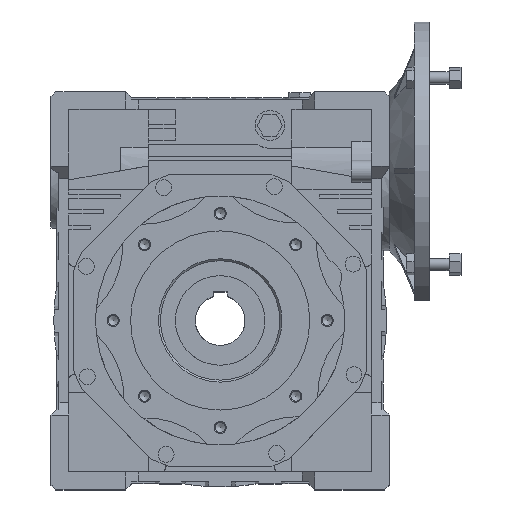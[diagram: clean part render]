
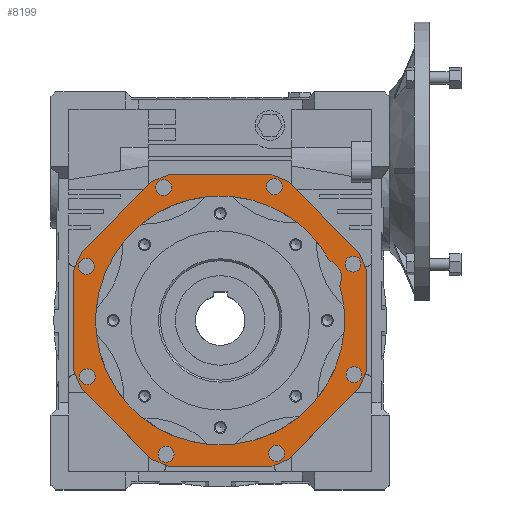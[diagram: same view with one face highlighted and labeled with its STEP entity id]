
A CAD part, top view. The second image highlights one B-rep face of the part: STEP entity #8199.
In plain terms, the highlighted planar face has unit normal (0, 0, 1).
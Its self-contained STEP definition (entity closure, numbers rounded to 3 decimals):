
#8173 = VERTEX_POINT('',#8174);
#8174 = CARTESIAN_POINT('',(120.015,34.95,85.));
#8180 = EDGE_CURVE('',#8173,#8181,#8183,.T.);
#8181 = VERTEX_POINT('',#8182);
#8182 = CARTESIAN_POINT('',(109.58,60.144,85.));
#8183 = CIRCLE('',#8184,18.);
#8184 = AXIS2_PLACEMENT_3D('',#8185,#8186,#8187);
#8185 = CARTESIAN_POINT('',(103.94,43.05,85.));
#8186 = DIRECTION('',(-0.,0.,1.));
#8187 = DIRECTION('',(0.,-1.,0.));
#8199 = ADVANCED_FACE('',(#8200,#8211,#8222,#8233,#8244,#8255,#8266,
    #8277,#8288,#8298),#8436,.T.);
#8200 = FACE_BOUND('',#8201,.T.);
#8201 = EDGE_LOOP('',(#8202));
#8202 = ORIENTED_EDGE('',*,*,#8203,.F.);
#8203 = EDGE_CURVE('',#8204,#8204,#8206,.T.);
#8204 = VERTEX_POINT('',#8205);
#8205 = CARTESIAN_POINT('',(134.442,-62.318,85.));
#8206 = CIRCLE('',#8207,8.);
#8207 = AXIS2_PLACEMENT_3D('',#8208,#8209,#8210);
#8208 = CARTESIAN_POINT('',(134.442,-54.318,85.));
#8209 = DIRECTION('',(-0.,0.,1.));
#8210 = DIRECTION('',(0.,-1.,0.));
#8211 = FACE_BOUND('',#8212,.T.);
#8212 = EDGE_LOOP('',(#8213));
#8213 = ORIENTED_EDGE('',*,*,#8214,.F.);
#8214 = EDGE_CURVE('',#8215,#8215,#8217,.T.);
#8215 = VERTEX_POINT('',#8216);
#8216 = CARTESIAN_POINT('',(56.656,-141.473,85.));
#8217 = CIRCLE('',#8218,8.);
#8218 = AXIS2_PLACEMENT_3D('',#8219,#8220,#8221);
#8219 = CARTESIAN_POINT('',(56.656,-133.473,85.));
#8220 = DIRECTION('',(-0.,0.,1.));
#8221 = DIRECTION('',(0.,-1.,0.));
#8222 = FACE_BOUND('',#8223,.T.);
#8223 = EDGE_LOOP('',(#8224));
#8224 = ORIENTED_EDGE('',*,*,#8225,.F.);
#8225 = EDGE_CURVE('',#8226,#8226,#8228,.T.);
#8226 = VERTEX_POINT('',#8227);
#8227 = CARTESIAN_POINT('',(-54.318,-142.442,85.));
#8228 = CIRCLE('',#8229,8.);
#8229 = AXIS2_PLACEMENT_3D('',#8230,#8231,#8232);
#8230 = CARTESIAN_POINT('',(-54.318,-134.442,85.));
#8231 = DIRECTION('',(-0.,0.,1.));
#8232 = DIRECTION('',(0.,-1.,0.));
#8233 = FACE_BOUND('',#8234,.T.);
#8234 = EDGE_LOOP('',(#8235));
#8235 = ORIENTED_EDGE('',*,*,#8236,.F.);
#8236 = EDGE_CURVE('',#8237,#8237,#8239,.T.);
#8237 = VERTEX_POINT('',#8238);
#8238 = CARTESIAN_POINT('',(-133.473,-64.656,85.));
#8239 = CIRCLE('',#8240,8.);
#8240 = AXIS2_PLACEMENT_3D('',#8241,#8242,#8243);
#8241 = CARTESIAN_POINT('',(-133.473,-56.656,85.));
#8242 = DIRECTION('',(-0.,0.,1.));
#8243 = DIRECTION('',(0.,-1.,0.));
#8244 = FACE_BOUND('',#8245,.T.);
#8245 = EDGE_LOOP('',(#8246));
#8246 = ORIENTED_EDGE('',*,*,#8247,.F.);
#8247 = EDGE_CURVE('',#8248,#8248,#8250,.T.);
#8248 = VERTEX_POINT('',#8249);
#8249 = CARTESIAN_POINT('',(-134.442,46.318,85.));
#8250 = CIRCLE('',#8251,8.);
#8251 = AXIS2_PLACEMENT_3D('',#8252,#8253,#8254);
#8252 = CARTESIAN_POINT('',(-134.442,54.318,85.));
#8253 = DIRECTION('',(-0.,0.,1.));
#8254 = DIRECTION('',(0.,-1.,0.));
#8255 = FACE_BOUND('',#8256,.T.);
#8256 = EDGE_LOOP('',(#8257));
#8257 = ORIENTED_EDGE('',*,*,#8258,.F.);
#8258 = EDGE_CURVE('',#8259,#8259,#8261,.T.);
#8259 = VERTEX_POINT('',#8260);
#8260 = CARTESIAN_POINT('',(-56.656,125.473,85.));
#8261 = CIRCLE('',#8262,8.);
#8262 = AXIS2_PLACEMENT_3D('',#8263,#8264,#8265);
#8263 = CARTESIAN_POINT('',(-56.656,133.473,85.));
#8264 = DIRECTION('',(-0.,0.,1.));
#8265 = DIRECTION('',(0.,-1.,0.));
#8266 = FACE_BOUND('',#8267,.T.);
#8267 = EDGE_LOOP('',(#8268));
#8268 = ORIENTED_EDGE('',*,*,#8269,.F.);
#8269 = EDGE_CURVE('',#8270,#8270,#8272,.T.);
#8270 = VERTEX_POINT('',#8271);
#8271 = CARTESIAN_POINT('',(54.318,126.442,85.));
#8272 = CIRCLE('',#8273,8.);
#8273 = AXIS2_PLACEMENT_3D('',#8274,#8275,#8276);
#8274 = CARTESIAN_POINT('',(54.318,134.442,85.));
#8275 = DIRECTION('',(-0.,0.,1.));
#8276 = DIRECTION('',(0.,-1.,0.));
#8277 = FACE_BOUND('',#8278,.T.);
#8278 = EDGE_LOOP('',(#8279));
#8279 = ORIENTED_EDGE('',*,*,#8280,.F.);
#8280 = EDGE_CURVE('',#8281,#8281,#8283,.T.);
#8281 = VERTEX_POINT('',#8282);
#8282 = CARTESIAN_POINT('',(133.473,48.656,85.));
#8283 = CIRCLE('',#8284,8.);
#8284 = AXIS2_PLACEMENT_3D('',#8285,#8286,#8287);
#8285 = CARTESIAN_POINT('',(133.473,56.656,85.));
#8286 = DIRECTION('',(-0.,0.,1.));
#8287 = DIRECTION('',(0.,-1.,0.));
#8288 = FACE_BOUND('',#8289,.T.);
#8289 = EDGE_LOOP('',(#8290,#8297));
#8290 = ORIENTED_EDGE('',*,*,#8291,.F.);
#8291 = EDGE_CURVE('',#8181,#8173,#8292,.T.);
#8292 = CIRCLE('',#8293,125.);
#8293 = AXIS2_PLACEMENT_3D('',#8294,#8295,#8296);
#8294 = CARTESIAN_POINT('',(0.,0.,85.));
#8295 = DIRECTION('',(-0.,0.,1.));
#8296 = DIRECTION('',(0.,-1.,0.));
#8297 = ORIENTED_EDGE('',*,*,#8180,.F.);
#8298 = FACE_BOUND('',#8299,.T.);
#8299 = EDGE_LOOP('',(#8300,#8311,#8319,#8328,#8336,#8345,#8353,#8362,
    #8370,#8379,#8387,#8396,#8404,#8413,#8421,#8430));
#8300 = ORIENTED_EDGE('',*,*,#8301,.T.);
#8301 = EDGE_CURVE('',#8302,#8304,#8306,.T.);
#8302 = VERTEX_POINT('',#8303);
#8303 = CARTESIAN_POINT('',(68.635,139.254,85.));
#8304 = VERTEX_POINT('',#8305);
#8305 = CARTESIAN_POINT('',(49.935,147.,85.));
#8306 = CIRCLE('',#8307,155.25);
#8307 = AXIS2_PLACEMENT_3D('',#8308,#8309,#8310);
#8308 = CARTESIAN_POINT('',(0.,0.,85.));
#8309 = DIRECTION('',(-0.,0.,1.));
#8310 = DIRECTION('',(0.,-1.,0.));
#8311 = ORIENTED_EDGE('',*,*,#8312,.T.);
#8312 = EDGE_CURVE('',#8304,#8313,#8315,.T.);
#8313 = VERTEX_POINT('',#8314);
#8314 = CARTESIAN_POINT('',(-49.935,147.,85.));
#8315 = LINE('',#8316,#8317);
#8316 = CARTESIAN_POINT('',(49.935,147.,85.));
#8317 = VECTOR('',#8318,1.);
#8318 = DIRECTION('',(-1.,0.,0.));
#8319 = ORIENTED_EDGE('',*,*,#8320,.T.);
#8320 = EDGE_CURVE('',#8313,#8321,#8323,.T.);
#8321 = VERTEX_POINT('',#8322);
#8322 = CARTESIAN_POINT('',(-68.635,139.254,85.));
#8323 = CIRCLE('',#8324,155.25);
#8324 = AXIS2_PLACEMENT_3D('',#8325,#8326,#8327);
#8325 = CARTESIAN_POINT('',(0.,0.,85.));
#8326 = DIRECTION('',(-0.,0.,1.));
#8327 = DIRECTION('',(0.,-1.,0.));
#8328 = ORIENTED_EDGE('',*,*,#8329,.T.);
#8329 = EDGE_CURVE('',#8321,#8330,#8332,.T.);
#8330 = VERTEX_POINT('',#8331);
#8331 = CARTESIAN_POINT('',(-139.254,68.635,85.));
#8332 = LINE('',#8333,#8334);
#8333 = CARTESIAN_POINT('',(-68.635,139.254,85.));
#8334 = VECTOR('',#8335,1.);
#8335 = DIRECTION('',(-0.707,-0.707,0.));
#8336 = ORIENTED_EDGE('',*,*,#8337,.T.);
#8337 = EDGE_CURVE('',#8330,#8338,#8340,.T.);
#8338 = VERTEX_POINT('',#8339);
#8339 = CARTESIAN_POINT('',(-147.,49.935,85.));
#8340 = CIRCLE('',#8341,155.25);
#8341 = AXIS2_PLACEMENT_3D('',#8342,#8343,#8344);
#8342 = CARTESIAN_POINT('',(0.,0.,85.));
#8343 = DIRECTION('',(-0.,0.,1.));
#8344 = DIRECTION('',(0.,-1.,0.));
#8345 = ORIENTED_EDGE('',*,*,#8346,.T.);
#8346 = EDGE_CURVE('',#8338,#8347,#8349,.T.);
#8347 = VERTEX_POINT('',#8348);
#8348 = CARTESIAN_POINT('',(-147.,-49.935,85.));
#8349 = LINE('',#8350,#8351);
#8350 = CARTESIAN_POINT('',(-147.,49.935,85.));
#8351 = VECTOR('',#8352,1.);
#8352 = DIRECTION('',(0.,-1.,0.));
#8353 = ORIENTED_EDGE('',*,*,#8354,.T.);
#8354 = EDGE_CURVE('',#8347,#8355,#8357,.T.);
#8355 = VERTEX_POINT('',#8356);
#8356 = CARTESIAN_POINT('',(-139.254,-68.635,85.));
#8357 = CIRCLE('',#8358,155.25);
#8358 = AXIS2_PLACEMENT_3D('',#8359,#8360,#8361);
#8359 = CARTESIAN_POINT('',(0.,0.,85.));
#8360 = DIRECTION('',(-0.,0.,1.));
#8361 = DIRECTION('',(0.,-1.,0.));
#8362 = ORIENTED_EDGE('',*,*,#8363,.T.);
#8363 = EDGE_CURVE('',#8355,#8364,#8366,.T.);
#8364 = VERTEX_POINT('',#8365);
#8365 = CARTESIAN_POINT('',(-68.635,-139.254,85.));
#8366 = LINE('',#8367,#8368);
#8367 = CARTESIAN_POINT('',(-139.254,-68.635,85.));
#8368 = VECTOR('',#8369,1.);
#8369 = DIRECTION('',(0.707,-0.707,0.));
#8370 = ORIENTED_EDGE('',*,*,#8371,.T.);
#8371 = EDGE_CURVE('',#8364,#8372,#8374,.T.);
#8372 = VERTEX_POINT('',#8373);
#8373 = CARTESIAN_POINT('',(-49.935,-147.,85.));
#8374 = CIRCLE('',#8375,155.25);
#8375 = AXIS2_PLACEMENT_3D('',#8376,#8377,#8378);
#8376 = CARTESIAN_POINT('',(0.,0.,85.));
#8377 = DIRECTION('',(-0.,0.,1.));
#8378 = DIRECTION('',(0.,-1.,0.));
#8379 = ORIENTED_EDGE('',*,*,#8380,.T.);
#8380 = EDGE_CURVE('',#8372,#8381,#8383,.T.);
#8381 = VERTEX_POINT('',#8382);
#8382 = CARTESIAN_POINT('',(49.935,-147.,85.));
#8383 = LINE('',#8384,#8385);
#8384 = CARTESIAN_POINT('',(-49.935,-147.,85.));
#8385 = VECTOR('',#8386,1.);
#8386 = DIRECTION('',(1.,0.,0.));
#8387 = ORIENTED_EDGE('',*,*,#8388,.T.);
#8388 = EDGE_CURVE('',#8381,#8389,#8391,.T.);
#8389 = VERTEX_POINT('',#8390);
#8390 = CARTESIAN_POINT('',(68.635,-139.254,85.));
#8391 = CIRCLE('',#8392,155.25);
#8392 = AXIS2_PLACEMENT_3D('',#8393,#8394,#8395);
#8393 = CARTESIAN_POINT('',(0.,0.,85.));
#8394 = DIRECTION('',(-0.,0.,1.));
#8395 = DIRECTION('',(0.,-1.,0.));
#8396 = ORIENTED_EDGE('',*,*,#8397,.T.);
#8397 = EDGE_CURVE('',#8389,#8398,#8400,.T.);
#8398 = VERTEX_POINT('',#8399);
#8399 = CARTESIAN_POINT('',(139.254,-68.635,85.));
#8400 = LINE('',#8401,#8402);
#8401 = CARTESIAN_POINT('',(68.635,-139.254,85.));
#8402 = VECTOR('',#8403,1.);
#8403 = DIRECTION('',(0.707,0.707,0.));
#8404 = ORIENTED_EDGE('',*,*,#8405,.T.);
#8405 = EDGE_CURVE('',#8398,#8406,#8408,.T.);
#8406 = VERTEX_POINT('',#8407);
#8407 = CARTESIAN_POINT('',(147.,-49.935,85.));
#8408 = CIRCLE('',#8409,155.25);
#8409 = AXIS2_PLACEMENT_3D('',#8410,#8411,#8412);
#8410 = CARTESIAN_POINT('',(0.,0.,85.));
#8411 = DIRECTION('',(-0.,0.,1.));
#8412 = DIRECTION('',(0.,-1.,0.));
#8413 = ORIENTED_EDGE('',*,*,#8414,.T.);
#8414 = EDGE_CURVE('',#8406,#8415,#8417,.T.);
#8415 = VERTEX_POINT('',#8416);
#8416 = CARTESIAN_POINT('',(147.,49.935,85.));
#8417 = LINE('',#8418,#8419);
#8418 = CARTESIAN_POINT('',(147.,-49.935,85.));
#8419 = VECTOR('',#8420,1.);
#8420 = DIRECTION('',(0.,1.,0.));
#8421 = ORIENTED_EDGE('',*,*,#8422,.T.);
#8422 = EDGE_CURVE('',#8415,#8423,#8425,.T.);
#8423 = VERTEX_POINT('',#8424);
#8424 = CARTESIAN_POINT('',(139.254,68.635,85.));
#8425 = CIRCLE('',#8426,155.25);
#8426 = AXIS2_PLACEMENT_3D('',#8427,#8428,#8429);
#8427 = CARTESIAN_POINT('',(0.,0.,85.));
#8428 = DIRECTION('',(-0.,0.,1.));
#8429 = DIRECTION('',(0.,-1.,0.));
#8430 = ORIENTED_EDGE('',*,*,#8431,.T.);
#8431 = EDGE_CURVE('',#8423,#8302,#8432,.T.);
#8432 = LINE('',#8433,#8434);
#8433 = CARTESIAN_POINT('',(139.254,68.635,85.));
#8434 = VECTOR('',#8435,1.);
#8435 = DIRECTION('',(-0.707,0.707,0.));
#8436 = PLANE('',#8437);
#8437 = AXIS2_PLACEMENT_3D('',#8438,#8439,#8440);
#8438 = CARTESIAN_POINT('',(0.,0.,85.));
#8439 = DIRECTION('',(0.,0.,1.));
#8440 = DIRECTION('',(0.,-1.,0.));
